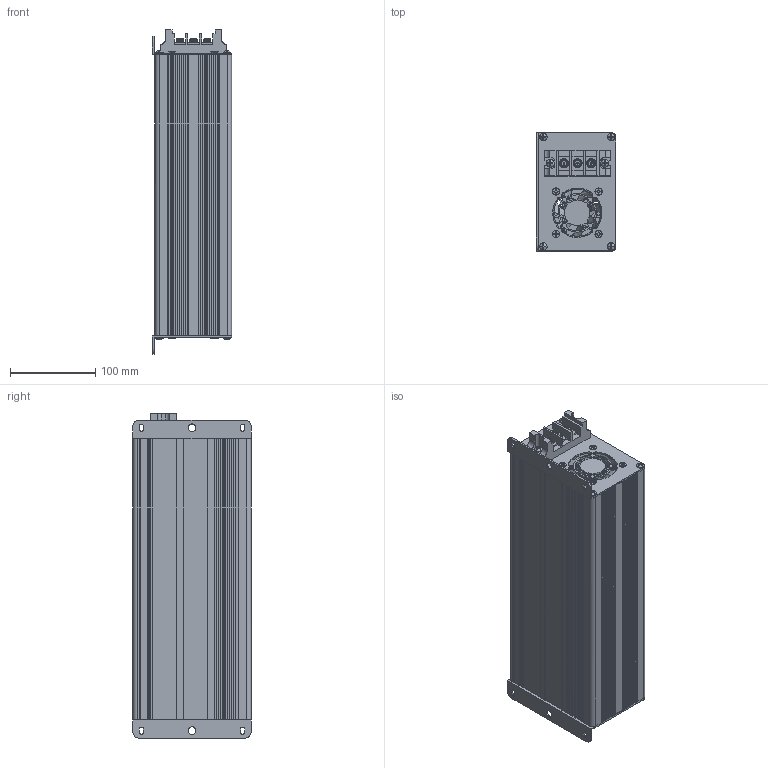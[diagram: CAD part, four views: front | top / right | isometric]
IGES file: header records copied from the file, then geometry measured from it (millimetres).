
Global section: file name: CH330; native system: Autodesk Inventor 2021; preprocessor: unknown; author: eunsol jang; date: 20240605.163005; units: inch
Bounding box: 93 x 139 x 381.5 mm (x, y, z)
Volume: 562507.1 mm3; surface area: 440944.3 mm2
Topology: 1 solids, 1 shells, 1686 faces, 4664 edges, 3012 vertices
Faces by surface type: bspline 1686
